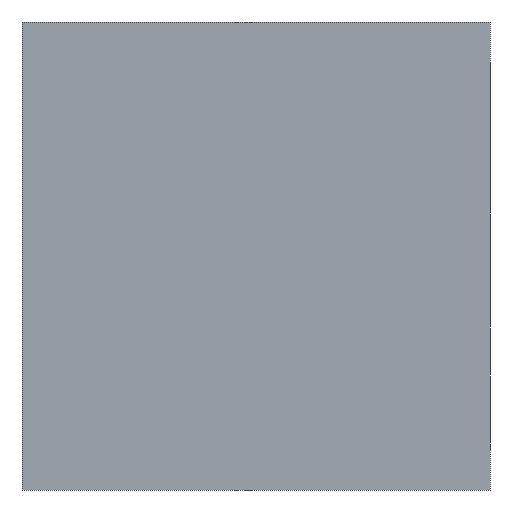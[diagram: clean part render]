
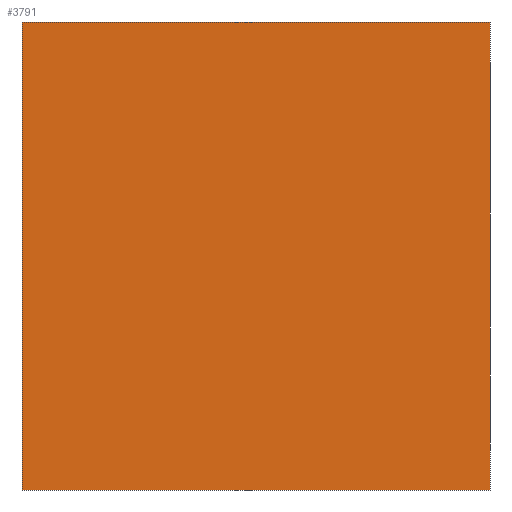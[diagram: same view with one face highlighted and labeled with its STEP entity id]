
A CAD part, left-side view. The second image highlights one B-rep face of the part: STEP entity #3791.
In plain terms, the highlighted planar face has unit normal (-1, 0, 0).
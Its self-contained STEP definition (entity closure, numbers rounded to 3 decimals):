
#13 = ORIENTED_EDGE ( 'NONE', *, *, #4264, .F. ) ;
#258 = CARTESIAN_POINT ( 'NONE',  ( 0., -23., 23. ) ) ;
#541 = LINE ( 'NONE', #2043, #5607 ) ;
#556 = VECTOR ( 'NONE', #1962, 1000. ) ;
#734 = VECTOR ( 'NONE', #7122, 1000. ) ;
#873 = DIRECTION ( 'NONE',  ( -1., 0., 0. ) ) ;
#1133 = CARTESIAN_POINT ( 'NONE',  ( 0., 23., -23. ) ) ;
#1387 = ORIENTED_EDGE ( 'NONE', *, *, #5433, .F. ) ;
#1645 = DIRECTION ( 'NONE',  ( 0., 0., -1. ) ) ;
#1925 = CARTESIAN_POINT ( 'NONE',  ( 0., -23., -23. ) ) ;
#1962 = DIRECTION ( 'NONE',  ( 0., 1., 0. ) ) ;
#1980 = VECTOR ( 'NONE', #3808, 1000. ) ;
#2043 = CARTESIAN_POINT ( 'NONE',  ( 0., -23., 23. ) ) ;
#2522 = CARTESIAN_POINT ( 'NONE',  ( 0., -23., 23. ) ) ;
#2559 = LINE ( 'NONE', #8350, #734 ) ;
#2782 = CARTESIAN_POINT ( 'NONE',  ( 0., -23., -23. ) ) ;
#2931 = AXIS2_PLACEMENT_3D ( 'NONE', #6173, #873, #2960 ) ;
#2942 = VERTEX_POINT ( 'NONE', #2782 ) ;
#2960 = DIRECTION ( 'NONE',  ( 0., 0., 1. ) ) ;
#3175 = PLANE ( 'NONE',  #2931 ) ;
#3552 = LINE ( 'NONE', #2522, #1980 ) ;
#3666 = EDGE_LOOP ( 'NONE', ( #13, #1387, #6605, #6975 ) ) ;
#3791 = ADVANCED_FACE ( 'NONE', ( #7351 ), #3175, .T. ) ;
#3808 = DIRECTION ( 'NONE',  ( 0., -1., 0. ) ) ;
#4264 = EDGE_CURVE ( 'NONE', #2942, #5256, #7932, .T. ) ;
#5228 = EDGE_CURVE ( 'NONE', #7005, #7291, #3552, .T. ) ;
#5256 = VERTEX_POINT ( 'NONE', #1133 ) ;
#5433 = EDGE_CURVE ( 'NONE', #7291, #2942, #541, .T. ) ;
#5607 = VECTOR ( 'NONE', #1645, 1000. ) ;
#6173 = CARTESIAN_POINT ( 'NONE',  ( 0., 23., -23. ) ) ;
#6605 = ORIENTED_EDGE ( 'NONE', *, *, #5228, .F. ) ;
#6975 = ORIENTED_EDGE ( 'NONE', *, *, #8560, .F. ) ;
#7005 = VERTEX_POINT ( 'NONE', #8713 ) ;
#7122 = DIRECTION ( 'NONE',  ( 0., 0., 1. ) ) ;
#7291 = VERTEX_POINT ( 'NONE', #258 ) ;
#7351 = FACE_OUTER_BOUND ( 'NONE', #3666, .T. ) ;
#7932 = LINE ( 'NONE', #1925, #556 ) ;
#8350 = CARTESIAN_POINT ( 'NONE',  ( 0., 23., 23. ) ) ;
#8560 = EDGE_CURVE ( 'NONE', #5256, #7005, #2559, .T. ) ;
#8713 = CARTESIAN_POINT ( 'NONE',  ( 0., 23., 23. ) ) ;
